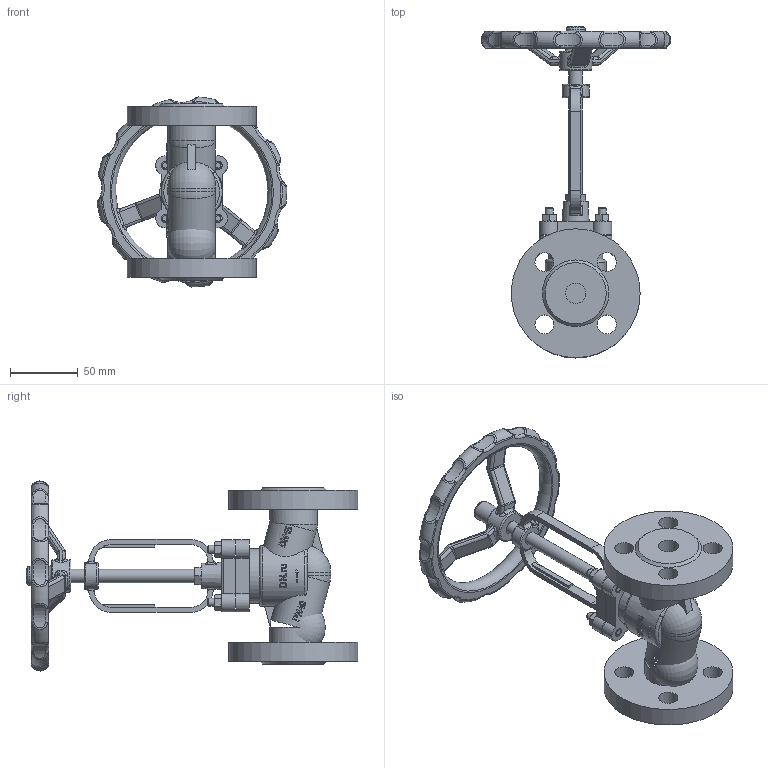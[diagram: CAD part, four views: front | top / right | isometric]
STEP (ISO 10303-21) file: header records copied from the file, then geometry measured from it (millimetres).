
FILE_DESCRIPTION(('STEP AP242'), '1');
FILE_NAME('VSO2130M-F-S 孰囡囗 玎镱痦 DN.ru 捏15 畜40', '2026-04-28T15:04:58', ('DN.ru'), (''), 'C3D Converter', 'C3D Toolkit', '');
FILE_SCHEMA(('AP242_MANAGED_MODEL_BASED_3D_ENGINEERING_MIM_LF { 1 0 10303 442 1 1 4 }'));
Length unit declared in the file: millimetre
Products named in the file (1): VSO2130M-F-S
Bounding box: 139.7 x 244.5 x 140.01 mm (x, y, z)
Volume: 428285 mm3; surface area: 104443.2 mm2
Topology: 1 solids, 1 shells, 873 faces, 2178 edges, 1353 vertices
Faces by surface type: plane 248, extrusion 212, cylinder 150, torus 107, bspline 72, sphere 64, cone 20
Full cylindrical faces by diameter (mm): 6 x12, 7.5 x1, 10 x2, 14 x8, 14.25 x1, 15 x2, 20 x1, 23.75 x1, 35 x2, 40 x1, 45 x1, 95 x2
Entity records: 64570 total; most frequent: CARTESIAN_POINT 38647, ORIENTED_EDGE 4208, DIRECTION 3192, EDGE_CURVE 2104, VERTEX_POINT 1350, AXIS2_PLACEMENT_3D 1171, EDGE_LOOP 1024, B_SPLINE_CURVE_WITH_KNOTS 952
